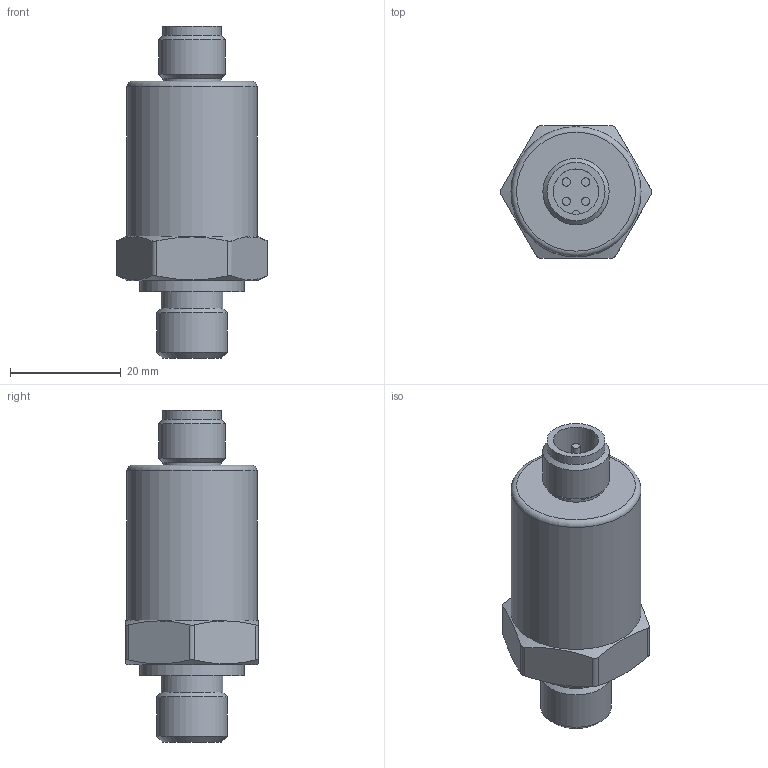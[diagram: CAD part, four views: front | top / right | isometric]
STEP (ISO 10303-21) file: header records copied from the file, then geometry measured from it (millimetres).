
FILE_DESCRIPTION(/* description */ (''),/* implementation_level */ '2;1');
FILE_NAME(/* name */ 'G14M-M12.stp',/* time_stamp */ '2026-05-13T16:25:46+08:00',/* author */ (''),/* organization */ (''),/* preprocessor_version */ 'ST-DEVELOPER v16',/* originating_system */ 'SIEMENS PLM Software NX 10.0',/* authorisation */ '');
FILE_SCHEMA (('AP203_CONFIGURATION_CONTROLLED_3D_DESIGN_OF_MECHANICAL_PARTS_AND_ASSEMBLIES_MIM_LF { 1 0 10303 403 2 1 2}'));
Length unit declared in the file: millimetre
Products named in the file (1): PRES3B3C478Byb0d
Bounding box: 27.4 x 24 x 60 mm (x, y, z)
Volume: 18387.1 mm3; surface area: 5394.5 mm2
Topology: 1 solids, 2 shells, 54 faces, 122 edges, 82 vertices
Faces by surface type: cylinder 26, plane 21, cone 6, torus 1
Full cylindrical faces by diameter (mm): 1.5 x8, 3 x1, 8.2 x1, 9.5 x1, 10.5 x2, 11.2 x1, 12 x1, 12.8 x1, 16.6 x1, 18.9 x1, 23.5 x1
Entity records: 1532 total; most frequent: CARTESIAN_POINT 409, DIRECTION 212, ORIENTED_EDGE 164, AXIS2_PLACEMENT_3D 99, EDGE_LOOP 98, EDGE_CURVE 82, FACE_BOUND 79, VERTEX_POINT 68
